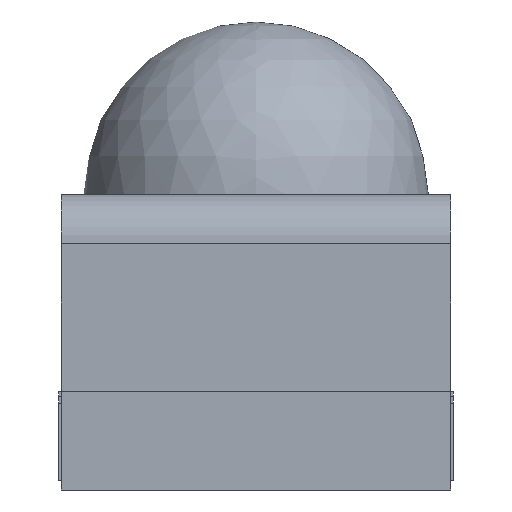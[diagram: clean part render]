
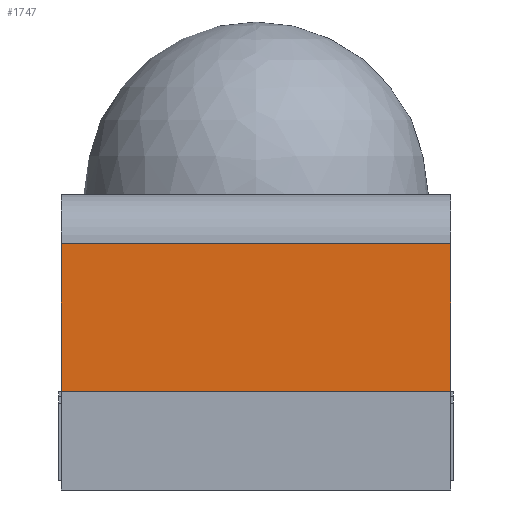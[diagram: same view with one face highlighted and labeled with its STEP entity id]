
A CAD part, left-side view. The second image highlights one B-rep face of the part: STEP entity #1747.
In plain terms, the highlighted planar face has unit normal (-1, 0, 0).
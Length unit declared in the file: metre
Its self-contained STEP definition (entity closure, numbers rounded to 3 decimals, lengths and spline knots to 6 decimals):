
#149=ORIENTED_EDGE('',*,*,#651,.F.);
#150=ORIENTED_EDGE('',*,*,#659,.F.);
#151=ORIENTED_EDGE('',*,*,#660,.T.);
#152=ORIENTED_EDGE('',*,*,#661,.F.);
#651=EDGE_CURVE('',#907,#908,#1078,.T.);
#659=EDGE_CURVE('',#913,#907,#1084,.T.);
#660=EDGE_CURVE('',#913,#914,#1085,.T.);
#661=EDGE_CURVE('',#908,#914,#1086,.T.);
#907=VERTEX_POINT('',#2335);
#908=VERTEX_POINT('',#2337);
#913=VERTEX_POINT('',#2353);
#914=VERTEX_POINT('',#2355);
#1078=LINE('',#2336,#1271);
#1084=LINE('',#2352,#1277);
#1085=LINE('',#2354,#1278);
#1086=LINE('',#2356,#1279);
#1271=VECTOR('',#1980,1.);
#1277=VECTOR('',#1996,1.);
#1278=VECTOR('',#1997,1.);
#1279=VECTOR('',#1998,1.);
#1465=EDGE_LOOP('',(#149,#150,#151,#152));
#1572=FACE_BOUND('',#1465,.T.);
#1678=PLANE('',#1899);
#1747=ADVANCED_FACE('',(#1572),#1678,.F.);
#1899=AXIS2_PLACEMENT_3D('',#2351,#1994,#1995);
#1980=DIRECTION('',(0.,1.,0.));
#1994=DIRECTION('',(1.,0.,0.));
#1995=DIRECTION('',(0.,0.,-1.));
#1996=DIRECTION('',(0.,0.,-1.));
#1997=DIRECTION('',(0.,1.,0.));
#1998=DIRECTION('',(0.,0.,1.));
#2335=CARTESIAN_POINT('',(-0.00049,-0.000395,0.0002));
#2336=CARTESIAN_POINT('',(-0.00049,-0.000397,0.0002));
#2337=CARTESIAN_POINT('',(-0.00049,0.000395,0.0002));
#2351=CARTESIAN_POINT('',(-0.00049,-0.000397,0.00035));
#2352=CARTESIAN_POINT('',(-0.00049,-0.000395,0.00035));
#2353=CARTESIAN_POINT('',(-0.00049,-0.000395,0.0005));
#2354=CARTESIAN_POINT('',(-0.00049,-0.000397,0.0005));
#2355=CARTESIAN_POINT('',(-0.00049,0.000395,0.0005));
#2356=CARTESIAN_POINT('',(-0.00049,0.000395,0.00035));
